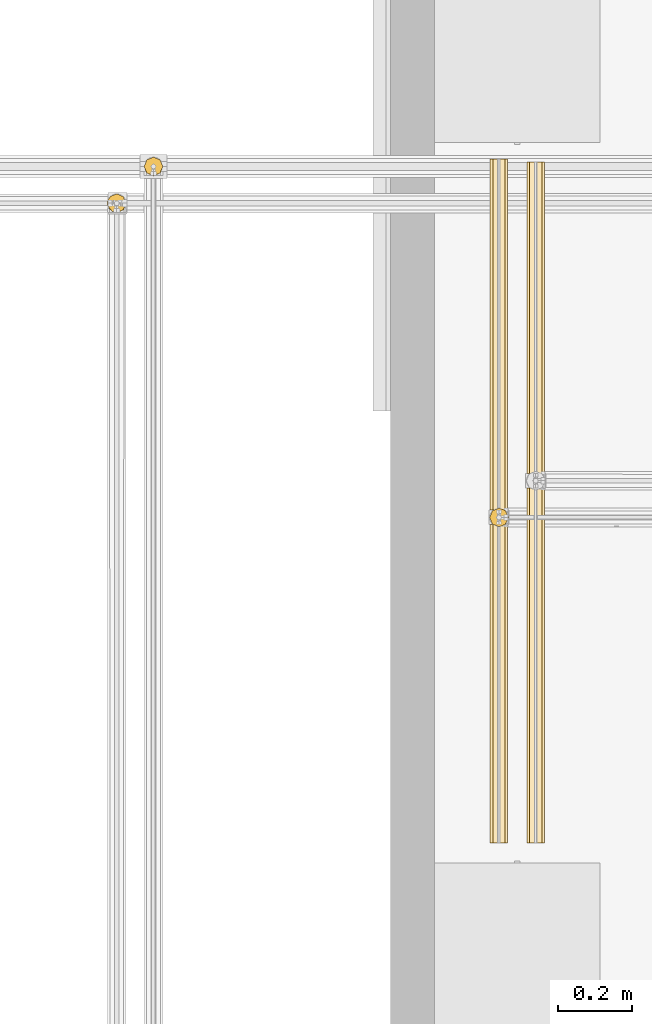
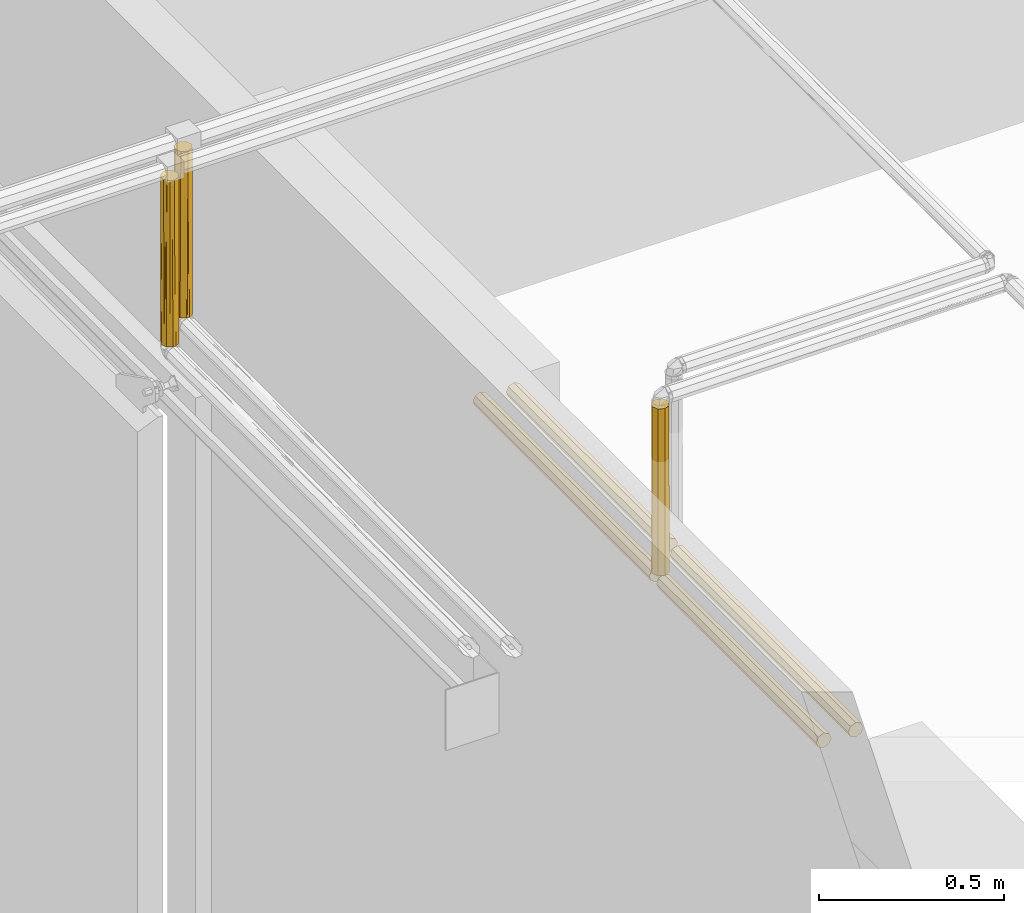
# One storey, part 213 of 652: 7 coverings.
"""IFC2X3 building model written with IfcOpenShell, lengths in millimetres."""

from ifc_helpers import new_model, entity, si_unit, converted_unit, direction, frame, origin, place, context, subcontext, project, spatial, faceted_brep, material, type_object, element, save


model = new_model("IFC2X3")

# Units and contexts
model_context = context("Model", 3, precision=0.01, world=frame((0.0, 0.0, 308426.39999999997)), true_north=direction((6.123233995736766e-17, 1.0)))
plan_context = context("Plan", 3, precision=0.01, world=frame((0.0, 0.0, 308426.39999999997)), true_north=direction((6.123233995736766e-17, 1.0)))
body_context = subcontext(model_context, "Body", "Model", "MODEL_VIEW")
ifc_project = project(units=[si_unit("LENGTHUNIT", "METRE", prefix="MILLI"), si_unit("AREAUNIT", "SQUARE_METRE"), si_unit("VOLUMEUNIT", "CUBIC_METRE"), converted_unit("PLANEANGLEUNIT", "DEGREE", entity("IfcPlaneAngleMeasure", 0.017453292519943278), si_unit("PLANEANGLEUNIT", "RADIAN"), dimensions=[0, 0, 0, 0, 0, 0, 0])], contexts=[model_context, plan_context])

# Site, building, storey
site_placement = place(None, origin())
site = spatial("IfcSite", under=ifc_project, at=site_placement, Name="Default", CompositionType="ELEMENT")
building_placement = place(site_placement, origin())
building = spatial("IfcBuilding", under=site, at=building_placement, CompositionType="ELEMENT")
storey_placement = place(building_placement, frame((0.0, 0.0, 1730.6999999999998)))
storey = spatial("IfcBuildingStorey", under=building, at=storey_placement, Name="EG_Produktion_FFB", CompositionType="ELEMENT", Elevation=1730.6999999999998)

# Coverings
ifc_material = material(Name="Dämmung - Armaflex-Schlauch")
covering_type = type_object("IfcCoveringType", Name="Rohrdämmung außen:Armaflex-Schlauch", PredefinedType="INSULATION")
covering_1_placement = place(storey_placement, frame((43719.642227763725, 67329.64924999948, 2674.642227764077)))
element("IfcCovering", 1, at=covering_1_placement, inside=storey, type_object=covering_type, material=ifc_material, Name="Rohrdämmung außen:Armaflex-Schlauch", ObjectType="Rohrdämmung außen:Armaflex-Schlauch", PredefinedType="INSULATION", context=body_context, shape_type="Brep", body=[
    faceted_brep([(12.755803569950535, 848.0995999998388, 43.900365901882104), (16.956459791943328, 848.0995999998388, 45.640334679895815), (21.157116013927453, 848.0995999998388, 47.38030345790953), (25.35777223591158, 848.0995999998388, 49.12027223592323), (28.355286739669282, 848.0995999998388, 47.87866107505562), (33.759084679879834, 848.0995999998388, 45.640334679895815), (37.95974090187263, 848.0995999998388, 43.900365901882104), (42.160397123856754, 848.0995999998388, 42.16039712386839), (43.90036590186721, 848.0995999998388, 37.9597409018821), (45.64033467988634, 848.0995999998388, 33.75908467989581), (47.3803034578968, 848.0995999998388, 29.558428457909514), (49.12027223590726, 848.0995999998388, 25.35777223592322), (47.3803034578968, 848.0995999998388, 21.15711601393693), (45.64033467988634, 848.0995999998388, 16.956459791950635), (43.90036590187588, 848.0995999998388, 12.755803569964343), (42.160397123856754, 848.0995999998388, 8.55514734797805), (37.95974090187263, 848.0995999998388, 6.815178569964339), (33.759084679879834, 848.0995999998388, 5.07520979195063), (29.558428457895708, 848.0995999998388, 3.335241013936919), (25.35777223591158, 848.0995999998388, 1.5952722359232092), (22.360257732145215, 848.0995999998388, 2.8368833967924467), (16.956459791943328, 848.0995999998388, 5.07520979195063), (12.755803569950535, 848.0995999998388, 6.815178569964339), (8.55514734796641, 848.0995999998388, 8.55514734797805), (6.815178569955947, 848.0995999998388, 12.755803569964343), (5.075209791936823, 848.0995999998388, 16.956459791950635), (3.3352410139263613, 848.0995999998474, 21.15711601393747), (1.5952722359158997, 848.0995999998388, 25.35777223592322), (2.83688339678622, 848.0995999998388, 28.35528673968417), (5.075209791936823, 848.0995999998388, 33.75908467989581), (6.815178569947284, 848.0995999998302, 37.9597409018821), (8.55514734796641, 848.0995999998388, 42.16039712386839), (1.5952722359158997, 0.0, 25.35777223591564), (4.078494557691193, 0.0, 19.362743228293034), (6.316820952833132, 0.0, 13.958945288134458), (8.55514734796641, 0.0, 8.55514734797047), (12.755803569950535, 0.0, 6.815178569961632), (16.956459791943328, 0.0, 5.075209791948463), (21.157116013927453, 0.0, 3.3352410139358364), (25.35777223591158, 0.0, 1.595272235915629), (31.35280124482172, 0.0, 4.078494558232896), (36.75659918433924, 0.0, 6.316820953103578), (42.160397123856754, 0.0, 8.55514734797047), (43.90036590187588, 0.0, 12.75580356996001), (45.64033467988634, 0.0, 16.95645979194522), (47.3803034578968, 0.0, 21.15711601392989), (49.12027223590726, 0.0, 25.35777223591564), (46.63704991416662, 0.0, 31.35280124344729), (44.398723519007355, 0.0, 36.75659918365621), (42.160397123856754, 0.0, 42.16039712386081), (37.95974090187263, 0.0, 43.90036590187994), (33.759084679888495, 0.0, 45.64033467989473), (29.558428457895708, 0.0, 47.38030345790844), (25.35777223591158, 0.0, 49.12027223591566), (19.362743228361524, 0.0, 46.637049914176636), (13.958945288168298, 0.0, 44.39872351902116), (8.55514734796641, 0.0, 42.16039712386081), (6.815178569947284, 0.0, 37.959740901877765), (5.075209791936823, 0.0, 33.75908467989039), (3.3352410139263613, 0.0, 29.558428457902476)], [[[0, 1, 2, 3, 4, 5, 6, 7, 8, 9, 10, 11, 12, 13, 14, 15, 16, 17, 18, 19, 20, 21, 22, 23, 24, 25, 26, 27, 28, 29, 30, 31]], [[32, 33, 34, 35, 36, 37, 38, 39, 40, 41, 42, 43, 44, 45, 46, 47, 48, 49, 50, 51, 52, 53, 54, 55, 56, 57, 58, 59]], [[44, 43, 42, 15, 14, 13, 12, 11, 46, 45]], [[40, 39, 19, 18, 17, 16, 15, 42, 41]], [[37, 36, 35, 23, 22, 21, 20, 19, 39, 38]], [[23, 35, 34, 33, 32, 27, 26, 25, 24]], [[58, 57, 56, 31, 30, 29, 28, 27, 32, 59]], [[31, 56, 55, 54, 53, 3, 2, 1, 0]], [[51, 50, 49, 7, 6, 5, 4, 3, 53, 52]], [[7, 49, 48, 47, 46, 11, 10, 9, 8]]]),
])
covering_2_placement = place(storey_placement, frame((43619.6422277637, 66324.64924999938, 2674.642227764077)))
element("IfcCovering", 2, at=covering_2_placement, inside=storey, type_object=covering_type, material=ifc_material, Name="Rohrdämmung außen:Armaflex-Schlauch", ObjectType="Rohrdämmung außen:Armaflex-Schlauch", PredefinedType="INSULATION", context=body_context, shape_type="Brep", body=[
    faceted_brep([(12.755803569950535, 0.0, 6.815178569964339), (16.956459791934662, 0.0, 5.07520979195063), (21.157116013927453, 0.0, 3.335241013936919), (25.35777223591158, 0.0, 1.5952722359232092), (31.230907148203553, 0.0, 4.0280043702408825), (33.759084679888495, 0.0, 5.07520979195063), (37.95974090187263, 0.0, 6.815178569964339), (42.160397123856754, 0.0, 8.55514734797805), (43.90036590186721, 0.0, 12.755803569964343), (45.640334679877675, 0.0, 16.956459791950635), (47.3803034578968, 0.0, 21.15711601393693), (49.12027223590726, 0.0, 25.35777223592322), (46.68754010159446, 0.0, 31.230907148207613), (45.640334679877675, 0.0, 33.75908467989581), (43.90036590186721, 0.0, 37.9597409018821), (42.160397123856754, 0.0, 42.16039712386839), (37.95974090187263, 0.0, 43.900365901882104), (33.759084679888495, 0.0, 45.640334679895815), (29.558428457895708, 0.0, 47.38030345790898), (25.35777223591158, 0.0, 49.12027223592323), (19.484637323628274, 0.0, 46.68754010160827), (16.956459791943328, 0.0, 45.640334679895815), (12.755803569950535, 0.0, 43.900365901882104), (8.55514734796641, 0.0, 42.16039712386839), (6.815178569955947, 0.0, 37.9597409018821), (5.075209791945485, 0.0, 33.75908467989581), (3.3352410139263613, 0.0, 29.558428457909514), (1.5952722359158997, 0.0, 25.35777223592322), (3.335241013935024, 0.0, 21.15711601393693), (5.075209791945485, 0.0, 16.956459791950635), (6.815178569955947, 0.0, 12.755803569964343), (8.55514734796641, 0.0, 8.55514734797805), (1.5952722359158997, 865.7015000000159, 25.35777223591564), (4.0280043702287, 865.7015000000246, 31.230907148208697), (6.460736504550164, 865.7015000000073, 37.104042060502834), (8.55514734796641, 865.7015000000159, 42.16039712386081), (12.755803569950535, 865.7015000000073, 43.90036590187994), (16.956459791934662, 865.7015000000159, 45.64033467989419), (21.157116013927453, 865.7015000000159, 47.38030345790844), (25.35777223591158, 865.7015000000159, 49.12027223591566), (31.23090714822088, 865.7015000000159, 46.68754010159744), (37.104042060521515, 865.7015000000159, 44.254807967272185), (42.160397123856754, 865.7015000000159, 42.16039712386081), (43.90036590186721, 865.7015000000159, 37.959740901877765), (45.640334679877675, 865.7015000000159, 33.75908467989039), (47.3803034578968, 865.7015000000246, 29.558428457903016), (49.12027223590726, 865.7015000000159, 25.35777223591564), (46.68754010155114, 865.7015000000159, 19.484637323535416), (44.254807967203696, 865.7015000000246, 13.611502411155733), (42.160397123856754, 865.7015000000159, 8.55514734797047), (37.95974090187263, 865.7015000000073, 6.815178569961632), (33.759084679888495, 865.7015000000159, 5.075209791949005), (29.55842845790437, 865.7015000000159, 3.3352410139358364), (25.35777223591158, 865.7015000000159, 1.595272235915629), (19.48463732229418, 865.7015000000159, 4.028004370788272), (13.611502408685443, 865.7015000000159, 6.460736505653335), (8.55514734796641, 865.7015000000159, 8.55514734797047), (6.815178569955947, 865.7015000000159, 12.75580356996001), (5.075209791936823, 865.7015000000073, 16.95645979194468), (3.335241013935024, 865.7015000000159, 21.15711601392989)], [[[0, 1, 2, 3, 4, 5, 6, 7, 8, 9, 10, 11, 12, 13, 14, 15, 16, 17, 18, 19, 20, 21, 22, 23, 24, 25, 26, 27, 28, 29, 30, 31]], [[32, 33, 34, 35, 36, 37, 38, 39, 40, 41, 42, 43, 44, 45, 46, 47, 48, 49, 50, 51, 52, 53, 54, 55, 56, 57, 58, 59]], [[58, 57, 56, 31, 30, 29, 28, 27, 32, 59]], [[56, 55, 54, 53, 3, 2, 1, 0, 31]], [[9, 8, 7, 49, 48, 47, 46, 11, 10]], [[6, 5, 4, 3, 53, 52, 51, 50, 49, 7]], [[17, 16, 15, 42, 41, 40, 39, 19, 18]], [[14, 13, 12, 11, 46, 45, 44, 43, 42, 15]], [[25, 24, 23, 35, 34, 33, 32, 27, 26]], [[22, 21, 20, 19, 39, 38, 37, 36, 35, 23]]]),
])
covering_3_placement = place(storey_placement, frame((42578.054727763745, 68038.05472776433, 3323.371727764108)))
element("IfcCovering", 3, at=covering_3_placement, inside=storey, type_object=covering_type, material=ifc_material, Name="Rohrdämmung außen:Armaflex-Schlauch", ObjectType="Rohrdämmung außen:Armaflex-Schlauch", PredefinedType="INSULATION", context=body_context, shape_type="Brep", body=[
    faceted_brep([(52.29527223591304, 26.94527223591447, 552.6292722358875), (50.18963854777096, 32.02872164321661, 552.6292722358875), (48.58285068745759, 35.90785068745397, 552.6292722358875), (46.7266399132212, 40.38913991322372, 552.6292722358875), (44.87042913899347, 44.87042913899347, 552.6292722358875), (40.38913991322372, 46.7266399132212, 552.6292722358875), (35.90785068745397, 48.58285068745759, 552.6292722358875), (31.42656146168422, 50.43906146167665, 552.6292722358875), (26.94527223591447, 52.29527223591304, 552.6292722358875), (21.807989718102, 50.28566715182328, 552.6292722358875), (16.670707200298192, 48.27606206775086, 552.6292722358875), (9.744515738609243, 45.56667057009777, 552.6292722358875), (6.345393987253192, 40.338571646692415, 552.6292722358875), (2.9462722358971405, 35.11047272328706, 552.6292722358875), (2.9462722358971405, 18.78007174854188, 552.6292722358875), (5.923287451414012, 15.251185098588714, 552.6292722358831), (8.900302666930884, 11.72229844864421, 552.6292722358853), (11.877317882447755, 8.193411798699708, 552.6292722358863), (14.854333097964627, 4.664525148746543, 552.6292722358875), (20.89980266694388, 3.1298986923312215, 552.6292722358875), (26.94527223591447, 1.5952722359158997, 552.6292722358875), (31.42656146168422, 3.4514830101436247, 552.6292722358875), (35.90785068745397, 5.30769378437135, 552.6292722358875), (40.38913991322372, 7.1639045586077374, 552.6292722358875), (44.87042913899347, 9.020115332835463, 552.6292722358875), (46.7266399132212, 13.501404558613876, 552.6292722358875), (48.58285068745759, 17.982693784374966, 552.6292722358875), (50.43906146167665, 22.463983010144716, 552.6292722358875), (31.335193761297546, 1.9782722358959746, 1.5952722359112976), (22.55535071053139, 1.9782722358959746, 1.5952722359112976), (15.045383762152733, 6.308858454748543, 1.5952722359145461), (7.53541681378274, 10.63944467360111, 1.5952722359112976), (6.050380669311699, 14.715901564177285, 1.5952722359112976), (4.56534452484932, 18.792358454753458, 1.5952722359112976), (3.0803083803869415, 22.868815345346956, 1.5952722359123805), (1.5952722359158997, 26.94527223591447, 1.5952722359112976), (3.4514830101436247, 31.42656146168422, 1.5952722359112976), (5.30769378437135, 35.90785068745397, 1.5952722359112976), (7.1639045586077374, 40.38913991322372, 1.5952722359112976), (9.020115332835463, 44.87042913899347, 1.5952722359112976), (13.501404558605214, 46.7266399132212, 1.5952722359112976), (17.982693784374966, 48.58285068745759, 1.5952722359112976), (22.463983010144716, 50.43906146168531, 1.5952722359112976), (26.94527223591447, 52.29527223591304, 1.5952722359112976), (32.02872164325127, 50.1896385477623, 1.5952722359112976), (37.11217105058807, 48.08400485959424, 1.5952722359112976), (44.87042913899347, 44.87042913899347, 1.5952722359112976), (46.7266399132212, 40.389139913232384, 1.5952722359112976), (48.582850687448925, 35.90785068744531, 1.5952722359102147), (50.43906146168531, 31.42656146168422, 1.5952722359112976), (52.29527223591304, 26.94527223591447, 1.5952722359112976), (50.40167512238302, 21.747306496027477, 1.5952722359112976), (49.325199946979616, 18.792358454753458, 1.5952722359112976), (47.84016380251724, 14.715901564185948, 1.5952722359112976), (46.35512765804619, 10.63944467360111, 1.5952722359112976), (38.8451607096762, 6.308858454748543, 1.5952722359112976), (1.5952722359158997, 26.94527223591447, 551.2782722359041), (1.9353027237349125, 22.807165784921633, 551.6183027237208), (24.741973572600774, 1.6912037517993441, 1.882340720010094), (26.94527223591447, 1.5952722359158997, 1.978272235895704), (29.14857089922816, 1.6912037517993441, 1.882340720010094), (1.9353027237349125, 31.083378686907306, 551.6183027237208)], [[[0, 1, 2, 3, 4, 5, 6, 7, 8, 9, 10, 11, 12, 13, 14, 15, 16, 17, 18, 19, 20, 21, 22, 23, 24, 25, 26, 27]], [[28, 29, 30, 31, 32, 33, 34, 35, 36, 37, 38, 39, 40, 41, 42, 43, 44, 45, 46, 47, 48, 49, 50, 51, 52, 53, 54, 55]], [[33, 14, 34]], [[30, 17, 31]], [[56, 35, 57]], [[32, 31, 16]], [[30, 29, 19]], [[15, 33, 32]], [[17, 30, 18]], [[30, 19, 18]], [[57, 35, 34]], [[19, 58, 20]], [[20, 58, 59]], [[33, 15, 14]], [[34, 14, 57]], [[32, 16, 15]], [[16, 31, 17]], [[58, 19, 29]], [[28, 22, 21]], [[53, 52, 26]], [[21, 60, 28]], [[22, 28, 55]], [[53, 26, 25]], [[50, 0, 27]], [[52, 27, 26]], [[25, 54, 53]], [[55, 24, 23, 22]], [[27, 52, 51, 50]], [[60, 20, 59]], [[24, 55, 54]], [[24, 54, 25]], [[20, 60, 21]], [[43, 8, 7, 6, 5, 4, 46, 45, 44]], [[3, 2, 1, 0, 50, 49, 48, 47, 46, 4]], [[11, 40, 39]], [[36, 35, 61]], [[10, 9, 41]], [[12, 39, 38, 37]], [[12, 37, 13]], [[36, 13, 37]], [[13, 36, 61]], [[8, 42, 9]], [[10, 41, 40]], [[35, 56, 61]], [[39, 12, 11]], [[11, 10, 40]], [[42, 8, 43]], [[42, 41, 9]], [[56, 57, 14, 13, 61]], [[58, 29, 28, 60, 59]]]),
])
covering_4_placement = place(storey_placement, frame((42678.05472776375, 68138.05472776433, 3323.371727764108)))
element("IfcCovering", 4, at=covering_4_placement, inside=storey, type_object=covering_type, material=ifc_material, Name="Rohrdämmung außen:Armaflex-Schlauch", ObjectType="Rohrdämmung außen:Armaflex-Schlauch", PredefinedType="INSULATION", context=body_context, shape_type="Brep", body=[
    faceted_brep([(52.29527223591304, 26.94527223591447, 552.6292722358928), (50.18963854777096, 32.02872164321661, 552.6292722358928), (48.582850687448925, 35.90785068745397, 552.6292722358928), (46.72663991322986, 40.389139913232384, 552.6292722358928), (44.87042913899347, 44.87042913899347, 552.6292722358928), (40.38913991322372, 46.72663991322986, 552.6292722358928), (35.90785068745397, 48.58285068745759, 552.6292722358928), (31.42656146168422, 50.43906146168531, 552.6292722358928), (26.94527223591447, 52.29527223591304, 552.6292722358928), (21.861822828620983, 50.18963854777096, 552.6292722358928), (17.982693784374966, 48.58285068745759, 552.6292722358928), (13.501404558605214, 46.7266399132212, 552.6292722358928), (9.020115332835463, 44.87042913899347, 552.6292722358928), (7.1639045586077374, 40.38913991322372, 552.6292722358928), (5.307693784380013, 35.90785068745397, 552.6292722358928), (3.4514830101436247, 31.42656146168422, 552.6292722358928), (1.5952722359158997, 26.94527223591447, 552.6292722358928), (3.7009059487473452, 21.86182276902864, 552.6292722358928), (5.307693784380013, 17.982693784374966, 552.6292722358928), (7.1639045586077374, 13.501404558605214, 552.6292722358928), (9.020115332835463, 9.020115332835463, 552.6292722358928), (13.501404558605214, 7.1639045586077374, 552.6292722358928), (17.982693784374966, 5.30769378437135, 552.6292722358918), (22.463983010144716, 3.4514830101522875, 552.629272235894), (26.94527223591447, 1.5952722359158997, 552.6292722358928), (31.42656146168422, 3.4514830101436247, 552.6292722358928), (35.90785068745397, 5.30769378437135, 552.6292722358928), (40.38913991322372, 7.163904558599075, 552.6292722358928), (44.87042913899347, 9.020115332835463, 552.6292722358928), (46.7266399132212, 13.501404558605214, 552.6292722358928), (48.582850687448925, 17.982693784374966, 552.6292722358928), (50.43906146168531, 22.463983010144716, 552.6292722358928), (31.335193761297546, 1.9782722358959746, 1.5952722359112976), (22.55535071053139, 1.9782722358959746, 1.5952722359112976), (15.045383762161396, 6.308858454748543, 1.5952722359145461), (7.53541681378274, 10.63944467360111, 1.5952722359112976), (5.382466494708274, 16.549340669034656, 1.5952722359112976), (3.4888693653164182, 21.74730645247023, 1.5952722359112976), (1.5952722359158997, 26.94527223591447, 1.5952722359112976), (3.7009059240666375, 32.028721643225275, 1.5952722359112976), (5.806539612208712, 37.11217105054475, 1.5952722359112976), (9.020115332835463, 44.87042913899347, 1.5952722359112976), (13.501404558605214, 46.7266399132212, 1.5952722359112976), (17.982693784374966, 48.58285068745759, 1.5952722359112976), (22.463983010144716, 50.43906146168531, 1.5952722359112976), (26.94527223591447, 52.29527223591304, 1.5952722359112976), (32.02872164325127, 50.1896385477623, 1.5952722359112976), (37.11217105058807, 48.08400485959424, 1.5952722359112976), (44.87042913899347, 44.87042913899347, 1.5952722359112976), (46.7266399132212, 40.389139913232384, 1.5952722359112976), (48.582850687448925, 35.90785068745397, 1.5952722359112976), (50.43906146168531, 31.426561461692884, 1.5952722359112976), (52.29527223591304, 26.94527223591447, 1.5952722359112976), (50.40167512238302, 21.747306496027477, 1.5952722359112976), (49.325199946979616, 18.792358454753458, 1.5952722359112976), (47.84016380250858, 14.715901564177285, 1.5952722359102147), (46.35512765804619, 10.63944467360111, 1.5952722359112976), (38.84516070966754, 6.308858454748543, 1.5952722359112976), (24.741973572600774, 1.6912037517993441, 1.882340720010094), (26.94527223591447, 1.5952722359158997, 1.978272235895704), (29.14857089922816, 1.6912037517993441, 1.882340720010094)], [[[0, 1, 2, 3, 4, 5, 6, 7, 8, 9, 10, 11, 12, 13, 14, 15, 16, 17, 18, 19, 20, 21, 22, 23, 24, 25, 26, 27, 28, 29, 30, 31]], [[32, 33, 34, 35, 36, 37, 38, 39, 40, 41, 42, 43, 44, 45, 46, 47, 48, 49, 50, 51, 52, 53, 54, 55, 56, 57]], [[19, 18, 36]], [[36, 18, 37]], [[37, 18, 17, 16]], [[58, 23, 33]], [[34, 33, 22]], [[36, 35, 19]], [[24, 58, 59]], [[34, 22, 21, 20]], [[23, 22, 33]], [[35, 20, 19]], [[34, 20, 35]], [[37, 16, 38]], [[23, 58, 24]], [[32, 26, 25]], [[55, 54, 30]], [[25, 60, 32]], [[26, 32, 57]], [[55, 30, 29]], [[52, 0, 31]], [[54, 31, 30]], [[29, 56, 55]], [[57, 28, 27, 26]], [[31, 54, 53, 52]], [[60, 24, 59]], [[28, 57, 56]], [[28, 56, 29]], [[24, 60, 25]], [[45, 8, 7, 6, 5, 4, 48, 47, 46]], [[3, 2, 1, 0, 52, 51, 50, 49, 48, 4]], [[38, 16, 15, 14, 13, 12, 41, 40, 39]], [[11, 10, 9, 8, 45, 44, 43, 42, 41, 12]], [[58, 33, 32, 60, 59]]]),
])
covering_5_placement = place(storey_placement, frame((43719.64222776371, 66324.64924999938, 2725.3577722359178)))
element("IfcCovering", 5, at=covering_5_placement, inside=storey, type_object=covering_type, material=ifc_material, Name="Rohrdämmung außen:Armaflex-Schlauch", ObjectType="Rohrdämmung außen:Armaflex-Schlauch", PredefinedType="INSULATION", context=body_context, shape_type="Brep", body=[
    faceted_brep([(12.755803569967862, 965.7015000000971, -6.815178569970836), (16.95645979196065, 965.7015000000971, -5.075209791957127), (21.15711601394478, 965.7015000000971, -3.3352410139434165), (25.357772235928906, 965.7015000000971, -1.5952722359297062), (30.622734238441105, 965.7015000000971, -3.776090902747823), (33.759084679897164, 965.7015000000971, -5.075209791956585), (37.95974090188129, 965.7015000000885, -6.815178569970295), (42.16039712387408, 965.7015000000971, -8.555147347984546), (43.90036590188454, 965.7015000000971, -12.755803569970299), (45.64033467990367, 965.7015000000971, -16.95645979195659), (47.380303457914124, 965.7015000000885, -21.157116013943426), (49.12027223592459, 965.7015000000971, -25.35777223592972), (47.380303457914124, 965.7015000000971, -29.558428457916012), (45.64033467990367, 965.7015000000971, -33.7590846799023), (43.9003659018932, 965.7015000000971, -37.959740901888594), (42.16039712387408, 965.7015000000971, -42.160397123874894), (37.95974090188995, 965.7015000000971, -43.9003659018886), (33.759084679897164, 965.7015000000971, -45.64033467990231), (29.558428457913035, 965.7015000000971, -47.38030345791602), (25.357772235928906, 965.7015000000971, -49.12027223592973), (20.092810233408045, 965.7015000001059, -46.939453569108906), (16.95645979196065, 965.7015000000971, -45.64033467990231), (12.755803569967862, 965.7015000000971, -43.9003659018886), (8.555147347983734, 965.7015000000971, -42.160397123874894), (6.8151785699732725, 965.7015000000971, -37.959740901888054), (5.075209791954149, 965.7015000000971, -33.7590846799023), (3.33524101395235, 965.7015000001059, -29.558428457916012), (1.5952722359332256, 965.7015000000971, -25.35777223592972), (3.7760909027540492, 965.7015000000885, -20.092810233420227), (5.075209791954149, 965.7015000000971, -16.956459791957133), (6.81517856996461, 965.7015000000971, -12.75580356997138), (8.555147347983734, 965.7015000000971, -8.555147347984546), (1.5952722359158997, 0.0, -25.357772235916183), (3.7760909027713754, 0.0, -30.622734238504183), (5.956909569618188, 0.0, -35.88769624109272), (8.55514734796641, 0.0, -42.16039712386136), (12.755803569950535, 0.0, -43.90036590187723), (16.956459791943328, 0.0, -45.64033467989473), (21.157116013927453, 0.0, -47.380303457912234), (25.35777223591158, 0.0, -49.1202722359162), (30.622734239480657, 0.0, -46.93945356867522), (35.88769624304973, 0.0, -44.758634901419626), (42.160397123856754, 0.0, -42.16039712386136), (43.9003659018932, 0.0, -37.959740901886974), (45.640334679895, 0.0, -33.75908467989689), (47.380303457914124, 0.0, -29.558428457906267), (49.12027223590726, 0.0, -25.357772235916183), (46.93945356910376, 0.0, -20.09281023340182), (44.75863490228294, 0.0, -14.827848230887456), (42.160397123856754, 0.0, -8.55514734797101), (37.95974090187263, 0.0, -6.815178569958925), (33.759084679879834, 0.0, -5.075209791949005), (29.558428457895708, 0.0, -3.3352410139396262), (25.35777223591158, 0.0, -1.5952722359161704), (20.092810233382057, 0.0, -3.776090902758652), (14.827848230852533, 0.0, -5.956909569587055), (8.55514734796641, 0.0, -8.55514734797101), (6.81517856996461, 0.0, -12.755803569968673), (5.075209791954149, 0.0, -16.956459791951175), (3.335241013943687, 0.0, -21.15711601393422)], [[[0, 1, 2, 3, 4, 5, 6, 7, 8, 9, 10, 11, 12, 13, 14, 15, 16, 17, 18, 19, 20, 21, 22, 23, 24, 25, 26, 27, 28, 29, 30, 31]], [[32, 33, 34, 35, 36, 37, 38, 39, 40, 41, 42, 43, 44, 45, 46, 47, 48, 49, 50, 51, 52, 53, 54, 55, 56, 57, 58, 59]], [[44, 43, 42, 15, 14, 13, 12, 11, 46, 45]], [[42, 41, 40, 39, 19, 18, 17, 16, 15]], [[32, 27, 26, 25, 24, 23, 35, 34, 33]], [[22, 21, 20, 19, 39, 38, 37, 36, 35, 23]], [[53, 3, 2, 1, 0, 31, 56, 55, 54]], [[30, 29, 28, 27, 32, 59, 58, 57, 56, 31]], [[46, 11, 10, 9, 8, 7, 49, 48, 47]], [[6, 5, 4, 3, 53, 52, 51, 50, 49, 7]]]),
])
covering_6_placement = place(storey_placement, frame((43619.6422277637, 67229.6492499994, 2674.6422277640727)))
element("IfcCovering", 6, at=covering_6_placement, inside=storey, type_object=covering_type, material=ifc_material, Name="Rohrdämmung außen:Armaflex-Schlauch", ObjectType="Rohrdämmung außen:Armaflex-Schlauch", PredefinedType="INSULATION", context=body_context, shape_type="Brep", body=[
    faceted_brep([(12.755803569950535, 0.0, 6.815178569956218), (16.956459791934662, 0.0, 5.075209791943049), (21.157116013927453, 0.0, 3.3352410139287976), (25.35777223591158, 0.0, 1.5952722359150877), (30.681732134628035, 0.0, 3.8005286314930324), (33.759084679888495, 0.0, 5.075209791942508), (37.95974090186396, 0.0, 6.815178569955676), (42.160397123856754, 0.0, 8.555147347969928), (43.90036590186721, 0.0, 12.755803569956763), (45.640334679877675, 0.0, 16.956459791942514), (47.3803034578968, 0.0, 21.157116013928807), (49.12027223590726, 0.0, 25.3577722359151), (46.91501584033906, 0.0, 30.681732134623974), (45.640334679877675, 0.0, 33.759084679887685), (43.90036590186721, 0.0, 37.95974090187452), (42.160397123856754, 0.0, 42.16039712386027), (37.95974090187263, 0.0, 43.90036590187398), (33.759084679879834, 0.0, 45.640334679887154), (29.558428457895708, 0.0, 47.380303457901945), (25.35777223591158, 0.0, 49.12027223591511), (20.03381233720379, 0.0, 46.915015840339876), (16.956459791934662, 0.0, 45.640334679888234), (12.755803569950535, 0.0, 43.90036590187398), (8.55514734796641, 0.0, 42.16039712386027), (6.815178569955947, 0.0, 37.95974090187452), (5.075209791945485, 0.0, 33.759084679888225), (3.3352410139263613, 0.0, 29.558428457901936), (1.5952722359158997, 0.0, 25.3577722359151), (3.335241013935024, 0.0, 21.157116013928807), (5.075209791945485, 0.0, 16.956459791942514), (6.815178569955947, 0.0, 12.755803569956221), (8.55514734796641, 0.0, 8.555147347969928), (1.5952722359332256, 955.0, 25.35777223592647), (3.800528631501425, 955.0, 30.681732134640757), (6.005785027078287, 955.0, 36.00569203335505), (8.555147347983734, 955.0, 42.16039712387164), (12.755803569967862, 955.0, 43.90036590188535), (16.95645979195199, 955.0, 45.64033467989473), (21.15711601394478, 955.0, 47.38030345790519), (25.357772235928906, 955.0, 49.120272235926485), (30.681732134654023, 955.0, 46.91501584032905), (36.00569203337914, 955.0, 44.70975944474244), (42.16039712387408, 955.0, 42.16039712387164), (43.90036590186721, 955.0, 37.95974090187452), (45.640334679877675, 955.0, 33.75908467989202), (47.38030345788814, 955.0, 29.558428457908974), (49.12027223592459, 955.0, 25.35777223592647), (46.91501584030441, 955.0, 20.033812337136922), (44.70975944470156, 955.0, 14.70985243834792), (42.16039712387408, 955.0, 8.555147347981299), (37.95974090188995, 955.0, 6.815178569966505), (33.759084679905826, 955.0, 5.075209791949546), (29.558428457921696, 955.0, 3.335241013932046), (25.357772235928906, 955.0, 1.5952722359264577), (20.03381233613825, 955.0, 3.8005286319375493), (14.70985243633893, 955.0, 6.00578502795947), (8.555147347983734, 955.0, 8.555147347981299), (6.815178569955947, 955.0, 12.755803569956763), (5.075209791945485, 955.0, 16.956459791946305), (3.335241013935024, 955.0, 21.15711601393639)], [[[0, 1, 2, 3, 4, 5, 6, 7, 8, 9, 10, 11, 12, 13, 14, 15, 16, 17, 18, 19, 20, 21, 22, 23, 24, 25, 26, 27, 28, 29, 30, 31]], [[32, 33, 34, 35, 36, 37, 38, 39, 40, 41, 42, 43, 44, 45, 46, 47, 48, 49, 50, 51, 52, 53, 54, 55, 56, 57, 58, 59]], [[58, 57, 56, 31, 30, 29, 28, 27, 32, 59]], [[56, 55, 54, 53, 3, 2, 1, 0, 31]], [[46, 11, 10, 9, 8, 7, 49, 48, 47]], [[6, 5, 4, 3, 53, 52, 51, 50, 49, 7]], [[39, 19, 18, 17, 16, 15, 42, 41, 40]], [[14, 13, 12, 11, 46, 45, 44, 43, 42, 15]], [[32, 27, 26, 25, 24, 23, 35, 34, 33]], [[22, 21, 20, 19, 39, 38, 37, 36, 35, 23]]]),
])
covering_7_placement = place(storey_placement, frame((43618.0547277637, 67183.05472776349, 2723.999000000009)))
element("IfcCovering", 7, at=covering_7_placement, inside=storey, type_object=covering_type, material=ifc_material, Name="Rohrdämmung außen:Armaflex-Schlauch", ObjectType="Rohrdämmung außen:Armaflex-Schlauch", PredefinedType="INSULATION", context=body_context, shape_type="Brep", body=[
    faceted_brep([(1.5952722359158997, 26.94527223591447, 0.0), (3.7009059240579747, 32.02872164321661, 0.0), (5.30769378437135, 35.90785068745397, 0.0), (7.1639045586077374, 40.389139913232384, 0.0), (9.020115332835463, 44.87042913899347, 0.0), (13.501404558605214, 46.7266399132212, 0.0), (17.982693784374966, 48.58285068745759, 0.0), (22.463983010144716, 50.439061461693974, 0.0), (26.94527223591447, 52.29527223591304, 0.0), (32.02872170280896, 50.18963852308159, 0.0), (35.90785068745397, 48.58285068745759, 0.0), (40.38913991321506, 46.7266399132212, 0.0), (44.87042913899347, 44.87042913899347, 0.0), (46.7266399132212, 40.38913991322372, 0.0), (48.58285068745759, 35.90785068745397, 0.0), (50.43906146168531, 31.42656146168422, 0.0), (52.29527223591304, 26.94527223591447, 0.0), (50.43906146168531, 22.463983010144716, 0.0), (48.58285068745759, 17.982693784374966, 0.0), (46.7266399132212, 13.501404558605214, 0.0), (44.87042913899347, 9.020115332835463, 0.0), (40.38913991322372, 7.1639045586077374, 0.0), (35.90785068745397, 5.30769378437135, 0.0), (31.42656146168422, 3.4514830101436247, 0.0), (26.94527223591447, 1.5952722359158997, 0.0), (21.861822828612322, 3.7009059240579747, 0.0), (17.982693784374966, 5.30769378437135, 0.0), (13.501404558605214, 7.1639045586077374, 0.0), (9.020115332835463, 9.020115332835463, 0.0), (7.1639045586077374, 13.501404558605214, 0.0), (5.30769378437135, 17.982693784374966, 0.0), (3.4514830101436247, 22.463983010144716, 0.0), (13.501404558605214, 7.1639045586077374, 551.0339999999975), (17.982693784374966, 5.30769378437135, 551.0339999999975), (22.463983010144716, 3.4514830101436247, 551.0339999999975), (26.94527223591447, 1.5952722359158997, 551.0339999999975), (32.14323797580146, 3.4888693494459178, 551.0339999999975), (35.098186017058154, 4.565344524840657, 551.0339999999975), (39.174642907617, 6.0503806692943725, 551.0339999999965), (43.251099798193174, 7.535416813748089, 551.0339999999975), (47.5816860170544, 15.045383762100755, 551.0339999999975), (51.91227223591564, 22.55535071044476, 551.0339999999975), (51.91227223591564, 31.335193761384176, 551.0339999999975), (47.58168601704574, 38.845160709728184, 551.0339999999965), (43.25109979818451, 46.355127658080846, 551.0339999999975), (37.34120380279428, 48.508077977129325, 551.0339999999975), (32.143238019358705, 50.40167510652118, 551.0339999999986), (26.94527223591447, 52.29527223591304, 551.0339999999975), (21.861822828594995, 50.18963854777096, 551.0339999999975), (16.778373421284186, 48.08400485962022, 551.0339999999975), (9.020115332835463, 44.87042913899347, 551.0339999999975), (7.1639045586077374, 40.389139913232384, 551.0339999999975), (5.30769378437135, 35.90785068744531, 551.0339999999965), (3.4514830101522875, 31.42656146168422, 551.0339999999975), (1.5952722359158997, 26.94527223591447, 551.0339999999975), (3.7009059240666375, 21.86182282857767, 551.0339999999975), (5.806539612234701, 16.778373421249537, 551.0339999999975), (9.020115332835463, 9.020115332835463, 551.0339999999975), (52.19934072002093, 29.148570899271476, 550.7469315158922), (52.29527223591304, 26.94527223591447, 550.6510000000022), (52.19934072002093, 24.74197357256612, 550.7469315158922)], [[[0, 1, 2, 3, 4, 5, 6, 7, 8, 9, 10, 11, 12, 13, 14, 15, 16, 17, 18, 19, 20, 21, 22, 23, 24, 25, 26, 27, 28, 29, 30, 31]], [[32, 33, 34, 35, 36, 37, 38, 39, 40, 41, 42, 43, 44, 45, 46, 47, 48, 49, 50, 51, 52, 53, 54, 55, 56, 57]], [[11, 10, 45]], [[45, 10, 46]], [[46, 10, 9, 8]], [[58, 15, 42]], [[43, 42, 14]], [[45, 44, 11]], [[16, 58, 59]], [[43, 14, 13, 12]], [[15, 14, 42]], [[44, 12, 11]], [[43, 12, 44]], [[46, 8, 47]], [[15, 58, 16]], [[41, 18, 17]], [[38, 37, 22]], [[17, 60, 41]], [[18, 41, 40]], [[38, 22, 21]], [[35, 24, 23]], [[37, 23, 22]], [[21, 39, 38]], [[40, 20, 19, 18]], [[23, 37, 36, 35]], [[60, 16, 59]], [[20, 40, 39]], [[20, 39, 21]], [[16, 60, 17]], [[54, 0, 31, 30, 29, 28, 57, 56, 55]], [[27, 26, 25, 24, 35, 34, 33, 32, 57, 28]], [[47, 8, 7, 6, 5, 4, 50, 49, 48]], [[3, 2, 1, 0, 54, 53, 52, 51, 50, 4]], [[42, 41, 60, 59, 58]]]),
])

save(model, "model.ifc")
